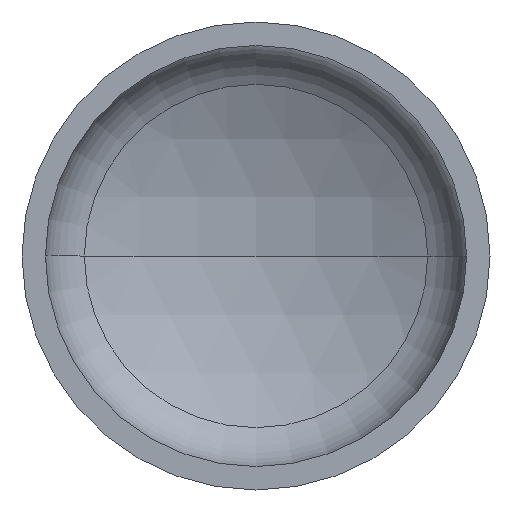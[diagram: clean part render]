
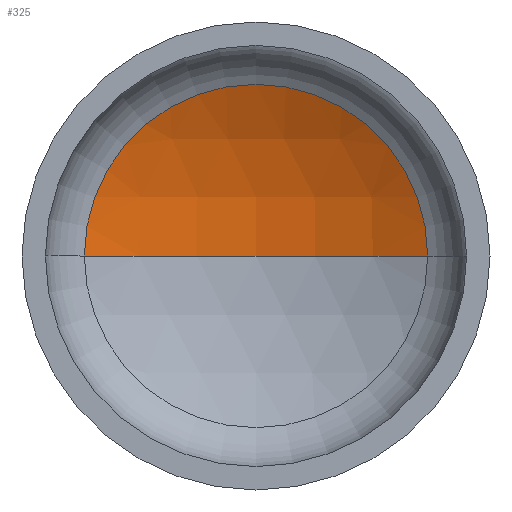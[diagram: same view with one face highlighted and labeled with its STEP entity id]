
A CAD part, front view. The second image highlights one B-rep face of the part: STEP entity #325.
In plain terms, the highlighted spherical face has radius 1120 mm.
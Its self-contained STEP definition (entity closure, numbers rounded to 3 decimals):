
#5 = CARTESIAN_POINT ( 'NONE',  ( 0., 435.761, 0. ) ) ;
#6 = DIRECTION ( 'NONE',  ( -1., 0., 0. ) ) ;
#24 = ORIENTED_EDGE ( 'NONE', *, *, #168, .F. ) ;
#26 = VERTEX_POINT ( 'NONE', #318 ) ;
#27 = AXIS2_PLACEMENT_3D ( 'NONE', #242, #240, #6 ) ;
#70 = VERTEX_POINT ( 'NONE', #257 ) ;
#71 = AXIS2_PLACEMENT_3D ( 'NONE', #298, #296, #295 ) ;
#72 = AXIS2_PLACEMENT_3D ( 'NONE', #310, #306, #302 ) ;
#74 = AXIS2_PLACEMENT_3D ( 'NONE', #285, #305, #304 ) ;
#114 = VERTEX_POINT ( 'NONE', #5 ) ;
#134 = ORIENTED_EDGE ( 'NONE', *, *, #162, .T. ) ;
#148 = FACE_OUTER_BOUND ( 'NONE', #161, .T. ) ;
#161 = EDGE_LOOP ( 'NONE', ( #24, #342, #134 ) ) ;
#162 = EDGE_CURVE ( 'NONE', #26, #70, #251, .T. ) ;
#163 = EDGE_CURVE ( 'NONE', #114, #26, #184, .T. ) ;
#168 = EDGE_CURVE ( 'NONE', #114, #70, #370, .T. ) ;
#184 = CIRCLE ( 'NONE', #72, 1120. ) ;
#240 = DIRECTION ( 'NONE',  ( 0., 0., -1. ) ) ;
#242 = CARTESIAN_POINT ( 'NONE',  ( 0., -684.239, 0. ) ) ;
#251 = CIRCLE ( 'NONE', #74, 513.591 ) ;
#257 = CARTESIAN_POINT ( 'NONE',  ( -513.591, 311.062, 0. ) ) ;
#285 = CARTESIAN_POINT ( 'NONE',  ( 0., 311.062, 0. ) ) ;
#295 = DIRECTION ( 'NONE',  ( 1., 0., 0. ) ) ;
#296 = DIRECTION ( 'NONE',  ( 0., 0., 1. ) ) ;
#298 = CARTESIAN_POINT ( 'NONE',  ( 0., -684.239, 0. ) ) ;
#302 = DIRECTION ( 'NONE',  ( -1., 0., 0. ) ) ;
#304 = DIRECTION ( 'NONE',  ( 1., 0., 0. ) ) ;
#305 = DIRECTION ( 'NONE',  ( 0., -1., 0. ) ) ;
#306 = DIRECTION ( 'NONE',  ( 0., 0., -1. ) ) ;
#310 = CARTESIAN_POINT ( 'NONE',  ( 0., -684.239, 0. ) ) ;
#318 = CARTESIAN_POINT ( 'NONE',  ( 513.591, 311.062, 0. ) ) ;
#325 = ADVANCED_FACE ( 'NONE', ( #148 ), #350, .F. ) ;
#342 = ORIENTED_EDGE ( 'NONE', *, *, #163, .T. ) ;
#350 = SPHERICAL_SURFACE ( 'NONE', #27, 1120. ) ;
#370 = CIRCLE ( 'NONE', #71, 1120. ) ;
